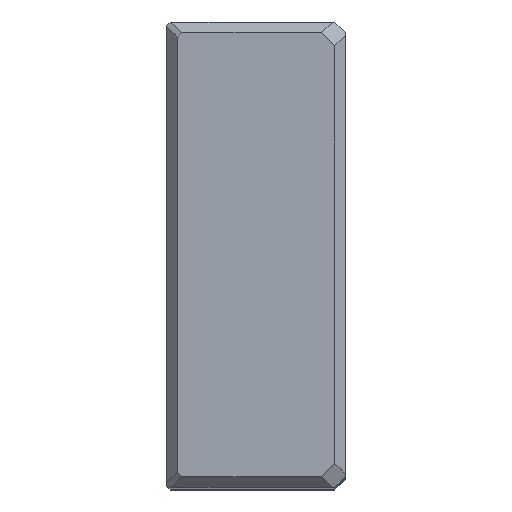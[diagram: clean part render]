
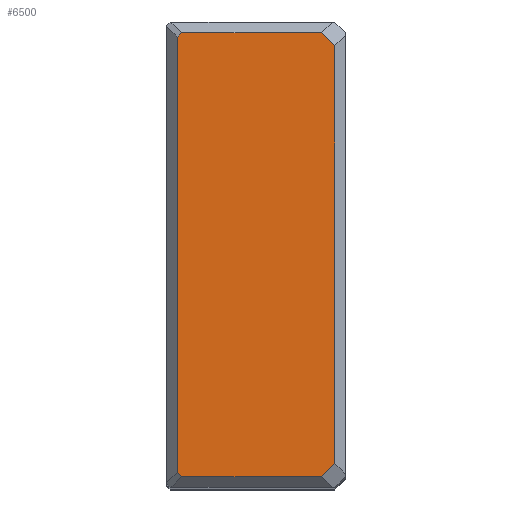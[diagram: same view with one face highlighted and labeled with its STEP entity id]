
A CAD part, top view. The second image highlights one B-rep face of the part: STEP entity #6500.
In plain terms, the highlighted planar face has unit normal (0, 0, 1).
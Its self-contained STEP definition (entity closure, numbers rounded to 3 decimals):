
#130=VERTEX_POINT(' ',#131);
#131=CARTESIAN_POINT('',(-3.,-58.326,0.));
#132=VERTEX_POINT(' ',#133);
#133=CARTESIAN_POINT('',(-6.674,-62.,0.));
#162=VERTEX_POINT(' ',#163);
#163=CARTESIAN_POINT('',(-3.,58.326,0.));
#170=VERTEX_POINT(' ',#171);
#171=CARTESIAN_POINT('',(-6.674,62.,0.));
#196=VERTEX_POINT(' ',#197);
#197=CARTESIAN_POINT('',(-45.775,-62.,0.));
#204=VERTEX_POINT(' ',#205);
#205=CARTESIAN_POINT('',(-47.,-60.775,0.));
#224=VERTEX_POINT(' ',#225);
#225=CARTESIAN_POINT('',(-47.,60.775,0.));
#228=VERTEX_POINT(' ',#229);
#229=CARTESIAN_POINT('',(-45.775,62.,0.));
#1383=LINE('',#1384,#1385);
#1384=CARTESIAN_POINT('',(27.663,-27.663,0.));
#1385=VECTOR('',#1386,1.);
#1386=DIRECTION('',(0.707,0.707,0.));
#1387=EDGE_CURVE(' ',#130,#132,#1383,.F.);
#1513=LINE('',#1514,#1515);
#1514=CARTESIAN_POINT('',(-3.,-65.12,0.));
#1515=VECTOR('',#1516,1.);
#1516=DIRECTION('',(0.,1.,0.));
#1517=EDGE_CURVE(' ',#130,#162,#1513,.T.);
#1538=LINE('',#1539,#1540);
#1539=CARTESIAN_POINT('',(27.663,27.663,0.));
#1540=VECTOR('',#1541,1.);
#1541=DIRECTION('',(-0.707,0.707,0.));
#1542=EDGE_CURVE(' ',#170,#162,#1538,.F.);
#1683=LINE('',#1684,#1685);
#1684=CARTESIAN_POINT('',(-50.12,-62.,0.));
#1685=VECTOR('',#1686,1.);
#1686=DIRECTION('',(1.,0.,0.));
#1687=EDGE_CURVE(' ',#196,#132,#1683,.T.);
#1698=LINE('',#1699,#1700);
#1699=CARTESIAN_POINT('',(-53.888,-53.888,0.));
#1700=VECTOR('',#1701,1.);
#1701=DIRECTION('',(0.707,-0.707,0.));
#1702=EDGE_CURVE(' ',#196,#204,#1698,.F.);
#1795=LINE('',#1796,#1797);
#1796=CARTESIAN_POINT('',(-47.,-65.12,0.));
#1797=VECTOR('',#1798,1.);
#1798=DIRECTION('',(0.,1.,0.));
#1799=EDGE_CURVE(' ',#204,#224,#1795,.T.);
#1800=LINE('',#1801,#1802);
#1801=CARTESIAN_POINT('',(-53.888,53.888,0.));
#1802=VECTOR('',#1803,1.);
#1803=DIRECTION('',(-0.707,-0.707,0.));
#1804=EDGE_CURVE(' ',#224,#228,#1800,.F.);
#1805=LINE('',#1806,#1807);
#1806=CARTESIAN_POINT('',(-50.12,62.,0.));
#1807=VECTOR('',#1808,1.);
#1808=DIRECTION('',(1.,0.,0.));
#1809=EDGE_CURVE(' ',#170,#228,#1805,.F.);
#6485=ORIENTED_EDGE('',*,*,#1804,.F.);
#6486=ORIENTED_EDGE('',*,*,#1799,.F.);
#6487=ORIENTED_EDGE('',*,*,#1702,.F.);
#6488=ORIENTED_EDGE('',*,*,#1687,.T.);
#6489=ORIENTED_EDGE('',*,*,#1387,.F.);
#6490=ORIENTED_EDGE('',*,*,#1517,.T.);
#6491=ORIENTED_EDGE('',*,*,#1542,.F.);
#6492=ORIENTED_EDGE('',*,*,#1809,.T.);
#6493=EDGE_LOOP('',(#6485,#6486,#6487,#6488,#6489,#6490,#6491,#6492));
#6494=FACE_OUTER_BOUND('',#6493,.T.);
#6495=PLANE('',#6496);
#6496=AXIS2_PLACEMENT_3D('',#6497,#6498,#6499);
#6497=CARTESIAN_POINT('',(-47.,0.,0.));
#6498=DIRECTION('',(0.,0.,1.));
#6499=DIRECTION('',(1.,0.,0.));
#6500=ADVANCED_FACE('',(#6494),#6495,.T.);
